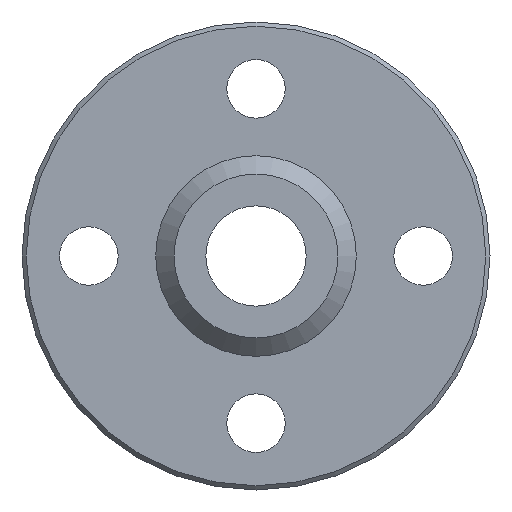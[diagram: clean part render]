
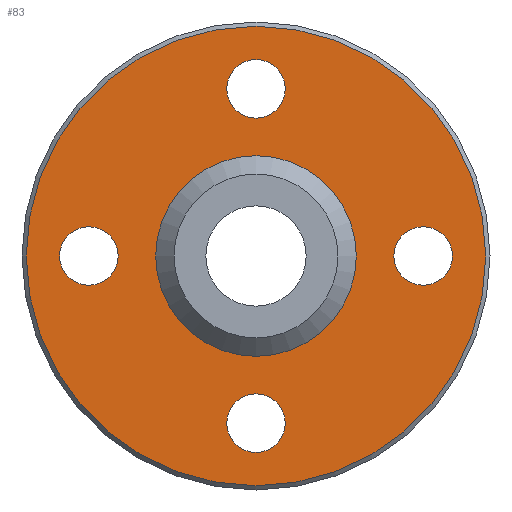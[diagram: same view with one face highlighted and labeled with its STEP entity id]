
A CAD part, left-side view. The second image highlights one B-rep face of the part: STEP entity #83.
In plain terms, the highlighted planar face has unit normal (-1, 0, 0).
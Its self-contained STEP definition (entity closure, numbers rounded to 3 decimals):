
#83=ADVANCED_FACE('',(#128,#129,#130,#131,#132,#133),#134,.F.);
#128=FACE_OUTER_BOUND('',#208,.T.);
#129=FACE_BOUND('',#209,.T.);
#130=FACE_BOUND('',#210,.T.);
#131=FACE_BOUND('',#211,.T.);
#132=FACE_BOUND('',#212,.T.);
#133=FACE_BOUND('',#213,.T.);
#134=PLANE('',#214);
#208=EDGE_LOOP('',(#304));
#209=EDGE_LOOP('',(#305));
#210=EDGE_LOOP('',(#306));
#211=EDGE_LOOP('',(#307));
#212=EDGE_LOOP('',(#308));
#213=EDGE_LOOP('',(#309));
#214=AXIS2_PLACEMENT_3D('',#310,#311,#312);
#304=ORIENTED_EDGE('',*,*,#401,.F.);
#305=ORIENTED_EDGE('',*,*,#402,.T.);
#306=ORIENTED_EDGE('',*,*,#403,.T.);
#307=ORIENTED_EDGE('',*,*,#404,.T.);
#308=ORIENTED_EDGE('',*,*,#405,.T.);
#309=ORIENTED_EDGE('',*,*,#400,.T.);
#310=CARTESIAN_POINT('',(-8.0,6.0,0.0));
#311=DIRECTION('',(1.0,0.0,0.0));
#312=DIRECTION('',(0.0,0.0,-1.0));
#400=EDGE_CURVE('',#440,#440,#441,.T.);
#401=EDGE_CURVE('',#442,#442,#443,.T.);
#402=EDGE_CURVE('',#444,#444,#445,.T.);
#403=EDGE_CURVE('',#446,#446,#447,.T.);
#404=EDGE_CURVE('',#448,#448,#449,.T.);
#405=EDGE_CURVE('',#450,#450,#451,.T.);
#440=VERTEX_POINT('',#496);
#441=CIRCLE('',#497,6.0);
#442=VERTEX_POINT('',#498);
#443=CIRCLE('',#499,13.746);
#444=VERTEX_POINT('',#500);
#445=CIRCLE('',#501,1.75);
#446=VERTEX_POINT('',#502);
#447=CIRCLE('',#503,1.75);
#448=VERTEX_POINT('',#504);
#449=CIRCLE('',#505,1.75);
#450=VERTEX_POINT('',#506);
#451=CIRCLE('',#507,1.75);
#496=CARTESIAN_POINT('',(-8.0,0.,-6.0));
#497=AXIS2_PLACEMENT_3D('',#564,#565,#566);
#498=CARTESIAN_POINT('',(-8.0,0.0,-13.746));
#499=AXIS2_PLACEMENT_3D('',#567,#568,#569);
#500=CARTESIAN_POINT('',(-8.0,-10.0,-1.75));
#501=AXIS2_PLACEMENT_3D('',#570,#571,#572);
#502=CARTESIAN_POINT('',(-8.0,0.0,-11.75));
#503=AXIS2_PLACEMENT_3D('',#573,#574,#575);
#504=CARTESIAN_POINT('',(-8.0,10.0,-1.75));
#505=AXIS2_PLACEMENT_3D('',#576,#577,#578);
#506=CARTESIAN_POINT('',(-8.0,0.0,8.25));
#507=AXIS2_PLACEMENT_3D('',#579,#580,#581);
#564=CARTESIAN_POINT('',(-8.0,0.,0.));
#565=DIRECTION('',(1.0,0.0,0.0));
#566=DIRECTION('',(0.0,0.0,-1.0));
#567=CARTESIAN_POINT('',(-8.0,0.0,0.0));
#568=DIRECTION('',(1.0,0.0,0.0));
#569=DIRECTION('',(0.0,0.0,-1.0));
#570=CARTESIAN_POINT('',(-8.0,-10.0,0.0));
#571=DIRECTION('',(1.0,0.0,0.0));
#572=DIRECTION('',(0.0,0.0,-1.0));
#573=CARTESIAN_POINT('',(-8.0,0.0,-10.0));
#574=DIRECTION('',(1.0,0.0,0.0));
#575=DIRECTION('',(0.0,0.0,-1.0));
#576=CARTESIAN_POINT('',(-8.0,10.0,0.));
#577=DIRECTION('',(1.0,0.0,0.0));
#578=DIRECTION('',(0.0,0.0,-1.0));
#579=CARTESIAN_POINT('',(-8.0,0.0,10.0));
#580=DIRECTION('',(1.0,0.0,0.0));
#581=DIRECTION('',(0.0,0.0,-1.0));
